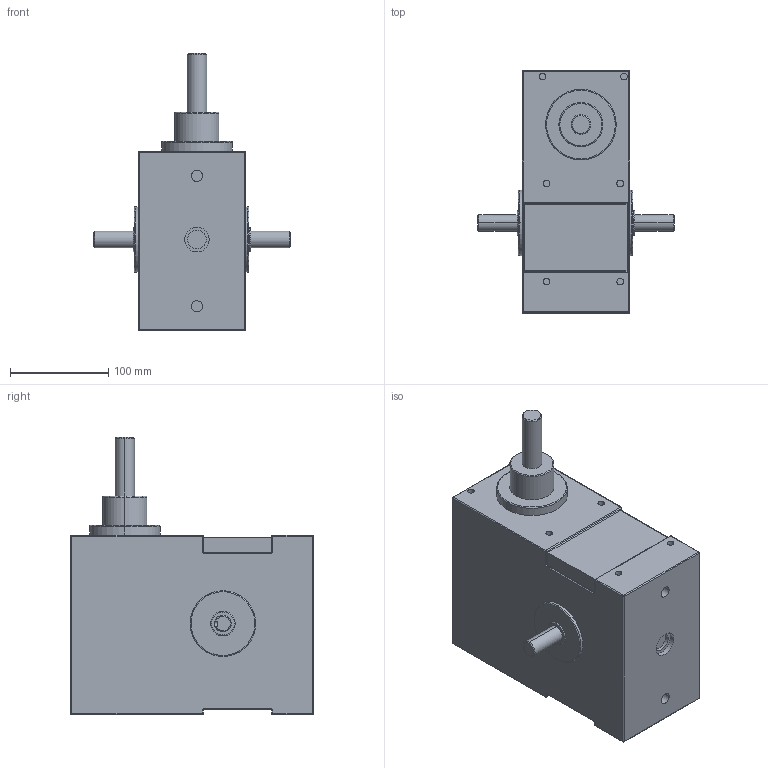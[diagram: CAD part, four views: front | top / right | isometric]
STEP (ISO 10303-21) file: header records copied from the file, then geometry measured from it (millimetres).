
FILE_DESCRIPTION((''),'2;1');
FILE_NAME('10FN','2017-09-04T',('松仔'),(''),'PRO/ENGINEER BY PARAMETRIC TECHNOLOGY CORPORATION, 2013430','PRO/ENGINEER BY PARAMETRIC TECHNOLOGY CORPORATION, 2013430','');
FILE_SCHEMA(('CONFIG_CONTROL_DESIGN'));
Length unit declared in the file: millimetre
Products named in the file (1): 10FN
Bounding box: 200 x 247 x 283 mm (x, y, z)
Volume: 5052543.4 mm3; surface area: 204942.8 mm2
Topology: 1 solids, 1 shells, 184 faces, 389 edges, 232 vertices
Faces by surface type: cylinder 91, plane 51, torus 22, sphere 16, cone 4
Entity records: 4999 total; most frequent: DIRECTION 971, CARTESIAN_POINT 843, ORIENTED_EDGE 778, AXIS2_PLACEMENT_3D 406, EDGE_CURVE 389, VERTEX_POINT 232, CIRCLE 222, EDGE_LOOP 209
